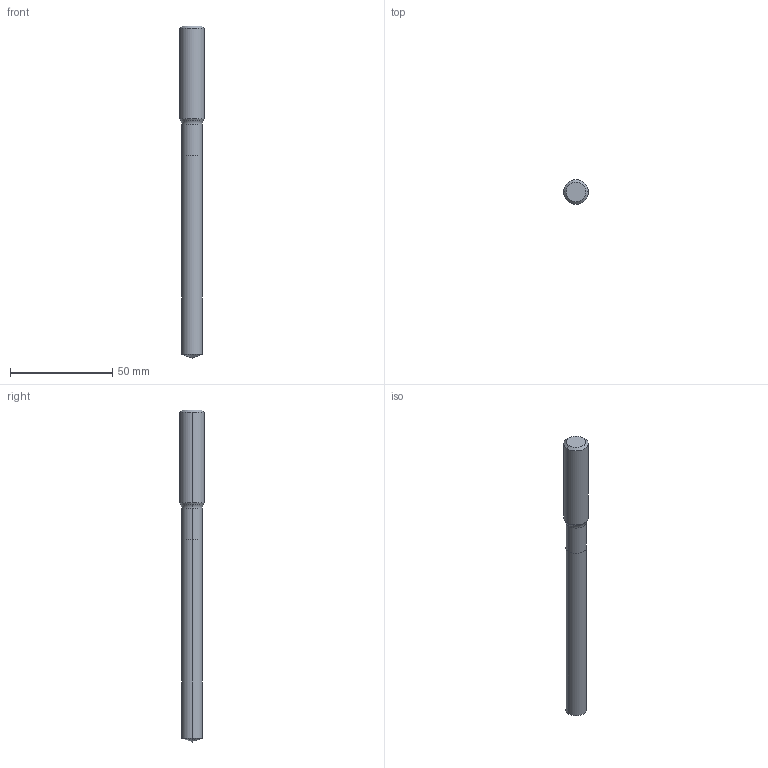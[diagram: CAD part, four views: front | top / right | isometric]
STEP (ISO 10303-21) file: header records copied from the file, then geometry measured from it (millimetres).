
FILE_DESCRIPTION (( 'STEP AP214' ), '1' );
FILE_NAME ('754.101.00_3D-model.step', '2023-08-22T07:13:59', ( '' ), ( '' ), 'SwSTEP 2.0', 'SolidWorks 2020', '' );
FILE_SCHEMA (( 'AUTOMOTIVE_DESIGN' ));
Length unit declared in the file: millimetre
Products named in the file (3): NOCUT-3D^Baugr25; CUT-3D^Baugr25; 754.101.00_3D-model
Assembly tree (2 placements, depth 2):
  754.101.00_3D-model
    CUT-3D^Baugr25
    NOCUT-3D^Baugr25
Bounding box: 12 x 12 x 162 mm (x, y, z)
Volume: 14378.6 mm3; surface area: 5695.2 mm2
Topology: 2 solids, 2 shells, 17 faces, 32 edges, 17 vertices
Faces by surface type: cone 6, cylinder 6, plane 3, torus 2
Entity records: 532 total; most frequent: DIRECTION 98, CARTESIAN_POINT 72, ORIENTED_EDGE 60, AXIS2_PLACEMENT_3D 43, EDGE_CURVE 30, CIRCLE 18, EDGE_LOOP 17, VERTEX_POINT 17
